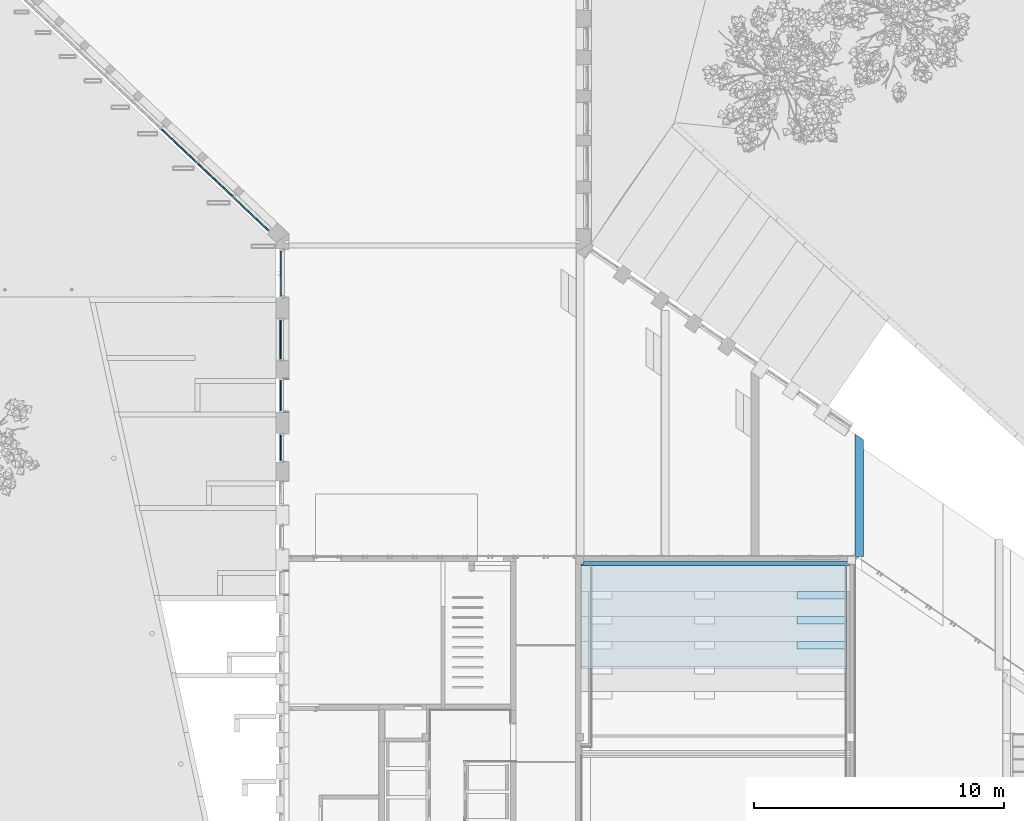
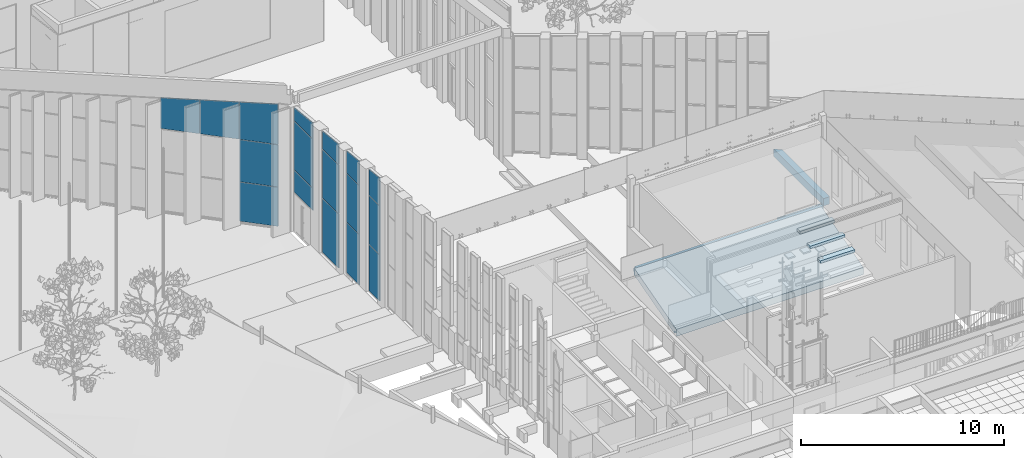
# One storey, part 98 of 246: 17 plates, 6 slabs, 5 elements without a shape of their own.
"""IFC2X3 building model written with IfcOpenShell, lengths in millimetres."""

import ifcopenshell
import ifcopenshell.guid

model = None  # the IFC model being written
_history = None  # IfcOwnerHistory: only IFC2X3 demands one
_inside = {}  # id of a spatial element -> (the spatial element, [elements in it])
_under = {}  # id of a project, library or spatial element -> (it, [spatial elements below it])
_declared = {}  # id of a project -> (the project, [libraries it declares])
_typed = {}  # id of a type object -> (the type object, [elements of that type])
_made_of = {}  # id of a material, layer set ... -> (it, [elements and type objects made of it])


def new_model(schema):
    """Start an empty IFC model of exactly this schema.

    Asked for "IFC4X3", IfcOpenShell would pick the latest addendum, in which some entities
    have other attributes; the version numbers below select the first issue.
    IFC2X3 requires an IfcOwnerHistory on every rooted entity: one is made here for all.
    """
    global model, _history
    if schema == "IFC4X3":
        model = ifcopenshell.file(schema_version=(4, 3, 0, 0))
    else:
        model = ifcopenshell.file(schema=schema)
    _inside.clear()
    _under.clear()
    _declared.clear()
    _typed.clear()
    _made_of.clear()
    _history = None
    if model.schema == "IFC2X3":
        org = make("IfcOrganization", Name="unknown")
        user = make(
            "IfcPersonAndOrganization",
            ThePerson=make("IfcPerson", FamilyName="unknown"),
            TheOrganization=org,
        )
        app = make(
            "IfcApplication",
            ApplicationDeveloper=org,
            Version="unknown",
            ApplicationFullName="unknown",
            ApplicationIdentifier="unknown",
        )
        _history = make(
            "IfcOwnerHistory",
            OwningUser=user,
            OwningApplication=app,
            ChangeAction="ADDED",
            CreationDate=0,
        )
    return model


def make(cls, **values):
    """One entity of the class cls with the attributes given. An attribute that is None is left unset."""
    return model.create_entity(
        cls, **{name: value for name, value in values.items() if value is not None}
    )


def entity(cls, *values):
    """Any entity or typed value of the class cls, its attributes in the order of the schema. None: left unset."""
    e = model.create_entity(cls)
    for i, value in enumerate(values):
        if value is not None:
            e[i] = value
    return e


def rooted(cls, **values):
    """An entity with a GlobalId (a new one), such as an element, a storey or a relation."""
    return make(cls, GlobalId=ifcopenshell.guid.new(), OwnerHistory=_history, **values)


def si_unit(unit_type, name, prefix=None):
    """IfcSIUnit, for example si_unit("LENGTHUNIT", "METRE", prefix="MILLI")."""
    return make("IfcSIUnit", UnitType=unit_type, Prefix=prefix, Name=name)


def converted_unit(unit_type, name, factor, base, dimensions=None, offset=None):
    """IfcConversionBasedUnit, such as the inch: factor (a typed value) times the base unit."""
    return make(
        "IfcConversionBasedUnit"
        if offset is None
        else "IfcConversionBasedUnitWithOffset",
        ConversionOffset=offset,
        Dimensions=None
        if dimensions is None
        else entity("IfcDimensionalExponents", *dimensions),
        UnitType=unit_type,
        Name=name,
        ConversionFactor=make(
            "IfcMeasureWithUnit", ValueComponent=factor, UnitComponent=base
        ),
    )


def derived_unit(unit_type, elements):
    """IfcDerivedUnit: a product of units, each with its exponent."""
    return make(
        "IfcDerivedUnit",
        Elements=[
            make("IfcDerivedUnitElement", Unit=unit, Exponent=power)
            for unit, power in elements
        ],
        UnitType=unit_type,
    )


def money_unit(currency):
    """IfcMonetaryUnit."""
    return make("IfcMonetaryUnit", Currency=currency)


def assignment(units):
    """IfcUnitAssignment: the units of a project."""
    return None if units is None else make("IfcUnitAssignment", Units=units)


def point(xyz):
    """IfcCartesianPoint."""
    return None if xyz is None else make("IfcCartesianPoint", Coordinates=xyz)


def direction(xyz):
    """IfcDirection."""
    return None if xyz is None else make("IfcDirection", DirectionRatios=xyz)


def frame(location, z_axis=None, x_axis=None):
    """IfcAxis2Placement3D, a coordinate frame: its origin and axes. An axis left out is left unset."""
    return make(
        "IfcAxis2Placement3D",
        Location=point(location),
        Axis=direction(z_axis),
        RefDirection=direction(x_axis),
    )


def origin_with_axes():
    """The frame at (0, 0, 0) with the z axis (0, 0, 1) and the x axis (1, 0, 0) written out."""
    return frame((0.0, 0.0, 0.0), z_axis=(0.0, 0.0, 1.0), x_axis=(1.0, 0.0, 0.0))


def place(relative_to, where):
    """IfcLocalPlacement: puts the frame where relative to a parent placement (None: the world)."""
    return make(
        "IfcLocalPlacement", PlacementRelTo=relative_to, RelativePlacement=where
    )


def context(
    kind, dimensions, precision=None, world=None, true_north=None, identifier=None
):
    """IfcGeometricRepresentationContext, for example the 3D "Model" context."""
    return make(
        "IfcGeometricRepresentationContext",
        ContextIdentifier=identifier,
        ContextType=kind,
        CoordinateSpaceDimension=dimensions,
        Precision=precision,
        WorldCoordinateSystem=world,
        TrueNorth=true_north,
    )


def subcontext(parent, identifier, kind, view, scale=None):
    """IfcGeometricRepresentationSubContext, for example "Body" below "Model"."""
    return make(
        "IfcGeometricRepresentationSubContext",
        ContextIdentifier=identifier,
        ContextType=kind,
        ParentContext=parent,
        TargetScale=scale,
        TargetView=view,
    )


def project(units=None, contexts=None):
    """IfcProject with its units and contexts."""
    return rooted(
        "IfcProject",
        Name="project",
        RepresentationContexts=contexts,
        UnitsInContext=assignment(units),
    )


def spatial(cls, under=None, at=None, **own):
    """A site, building, storey or space (cls), placed at a placement, below another one or the project."""
    s = rooted(cls, ObjectPlacement=at, **own)
    if under is not None:
        _under.setdefault(under.id(), (under, []))[1].append(s)
    return s


def faces_of(points, faces, orient=None, outer=None):
    """IfcFace entities. A face is a list of loops; a loop is a list of indices into points, from 0.

    orient and outer hold one flag for each loop. By default every Orientation is true, the
    first loop of a face is its IfcFaceOuterBound and the others are IfcFaceBound.
    """
    made = []
    for i, loops in enumerate(faces):
        bounds = []
        for j, loop in enumerate(loops):
            is_outer = j == 0 if outer is None else outer[i][j]
            bounds.append(
                make(
                    "IfcFaceOuterBound" if is_outer else "IfcFaceBound",
                    Bound=make("IfcPolyLoop", Polygon=[points[k] for k in loop]),
                    Orientation=True if orient is None else orient[i][j],
                )
            )
        made.append(make("IfcFace", Bounds=bounds))
    return made


def faceted_brep(points, faces, orient=None, outer=None, voids=None):
    """IfcFacetedBrep: a solid bounded by flat faces; with voids (closed shells), ...WithVoids."""
    shared = [point(p) for p in points]
    hull = make("IfcClosedShell", CfsFaces=faces_of(shared, faces, orient, outer))
    if voids is None:
        return make("IfcFacetedBrep", Outer=hull)
    return make(
        "IfcFacetedBrepWithVoids",
        Outer=hull,
        Voids=[
            make(cls, CfsFaces=faces_of(shared, fs, o, b)) for cls, fs, o, b in voids
        ],
    )


def shape(context_of_items, identifier, shape_type, items):
    """IfcShapeRepresentation: the items that make up one representation, for example the "Body"."""
    return make(
        "IfcShapeRepresentation",
        ContextOfItems=context_of_items,
        RepresentationIdentifier=identifier,
        RepresentationType=shape_type,
        Items=items,
    )


def material(Name=None, Category=None):
    """IfcMaterial."""
    return make("IfcMaterial", Name=Name, Category=Category)


def material_list(materials):
    """IfcMaterialList."""
    return make("IfcMaterialList", Materials=materials)


def made_of(thing, what):
    """Note that an element or type object is made of a material, layer set ...; save() writes the relation."""
    if what is not None:
        _made_of.setdefault(what.id(), (what, []))[1].append(thing)
    return thing


def type_object(cls, material=None, **own):
    """A type object (cls), such as IfcWallType, which elements share."""
    return made_of(rooted(cls, **own), material)


def element(
    cls,
    number,
    at=None,
    inside=None,
    cuts=None,
    type_object=None,
    material=None,
    context=None,
    identifier="Body",
    shape_type=None,
    held_by="IfcProductDefinitionShape",
    body=None,
    shapes=None,
    **own,
):
    """One element of the class cls, such as IfcWall. Its Tag is "e" and its number.

    at: its placement. inside: the storey or other place that contains it. cuts: it is an
    opening in that element (IfcRelVoidsElement). A single representation is given by context,
    identifier, shape_type and body (its items); several are given by shapes. held_by: the class
    of the entity that holds the representations. save() writes the other relations.
    """
    e = rooted(cls, Tag="e%d" % number, ObjectPlacement=at, **own)
    if body is not None:
        shapes = [shape(context, identifier, shape_type, body)]
    if shapes is not None:
        e.Representation = make(held_by, Representations=shapes)
    if inside is not None:
        _inside.setdefault(inside.id(), (inside, []))[1].append(e)
    if cuts is not None:
        rooted(
            "IfcRelVoidsElement", RelatingBuildingElement=cuts, RelatedOpeningElement=e
        )
    if type_object is not None:
        _typed.setdefault(type_object.id(), (type_object, []))[1].append(e)
    return made_of(e, material)


def aggregate(whole, parts):
    """IfcRelAggregates: a whole, such as a stair, and the parts it consists of."""
    return rooted("IfcRelAggregates", RelatingObject=whole, RelatedObjects=parts)


def save(model, path):
    """Write the relations noted so far, then the file.

    IfcRelAggregates (storeys below a building ...), IfcRelContainedInSpatialStructure (elements
    in a storey), IfcRelDefinesByType, IfcRelAssociatesMaterial and IfcRelDeclares: one each for
    every whole, place, type object, material and project.
    """
    for whole, parts in _under.values():
        aggregate(whole, parts)
    for where, things in _inside.values():
        rooted(
            "IfcRelContainedInSpatialStructure",
            RelatedElements=things,
            RelatingStructure=where,
        )
    for kind, things in _typed.values():
        rooted("IfcRelDefinesByType", RelatedObjects=things, RelatingType=kind)
    for what, things in _made_of.values():
        rooted("IfcRelAssociatesMaterial", RelatedObjects=things, RelatingMaterial=what)
    for by, libraries in _declared.values():
        rooted("IfcRelDeclares", RelatingContext=by, RelatedDefinitions=libraries)
    model.write(path)


model = new_model("IFC2X3")

# Units and contexts
model_context = context("Model", 3, precision=0.01, world=origin_with_axes(), true_north=direction((0.0, 1.0)))
body_context = subcontext(model_context, "Body", "Model", "MODEL_VIEW")
ifc_project = project(units=[si_unit("LENGTHUNIT", "METRE", prefix="MILLI"), si_unit("AREAUNIT", "SQUARE_METRE"), si_unit("VOLUMEUNIT", "CUBIC_METRE"), converted_unit("PLANEANGLEUNIT", "DEGREE", entity("IfcPlaneAngleMeasure", 0.0174532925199), si_unit("PLANEANGLEUNIT", "RADIAN"), dimensions=[0, 0, 0, 0, 0, 0, 0]), si_unit("SOLIDANGLEUNIT", "STERADIAN"), money_unit("EUR"), converted_unit("TIMEUNIT", "Year", entity("IfcTimeMeasure", 31556926.0), si_unit("TIMEUNIT", "SECOND"), dimensions=[0, 0, 1, 0, 0, 0, 0]), si_unit("MASSUNIT", "GRAM", prefix="KILO"), si_unit("THERMODYNAMICTEMPERATUREUNIT", "DEGREE_CELSIUS"), si_unit("LUMINOUSINTENSITYUNIT", "LUMEN"), si_unit("ENERGYUNIT", "JOULE", prefix="MEGA"), derived_unit("THERMALCONDUCTANCEUNIT", [(si_unit("POWERUNIT", "WATT"), 1), (si_unit("LENGTHUNIT", "METRE"), -1), (si_unit("THERMODYNAMICTEMPERATUREUNIT", "KELVIN"), -1)]), derived_unit("SPECIFICHEATCAPACITYUNIT", [(si_unit("ENERGYUNIT", "JOULE"), 1), (si_unit("MASSUNIT", "GRAM", prefix="KILO"), -1), (si_unit("THERMODYNAMICTEMPERATUREUNIT", "KELVIN"), -1)]), derived_unit("MASSDENSITYUNIT", [(si_unit("MASSUNIT", "GRAM", prefix="KILO"), 1), (si_unit("VOLUMEUNIT", "CUBIC_METRE"), -1)])], contexts=[model_context])

# Site, building, storey
site_placement = place(None, origin_with_axes())
site = spatial("IfcSite", under=ifc_project, at=site_placement, Name="L.Koidula tn 11b", CompositionType="ELEMENT")
building_placement = place(site_placement, origin_with_axes())
building = spatial("IfcBuilding", under=site, at=building_placement, Name="Rakvere Riigigümnaasium", CompositionType="ELEMENT")
storey_placement = place(building_placement, origin_with_axes())
storey = spatial("IfcBuildingStorey", under=building, at=storey_placement, Name="1.korrus 0,00", CompositionType="ELEMENT", Elevation=0.0)

# Curtain wall, plates
curtain_wall_type = type_object("IfcCurtainWallType", Name="Curtain Wall Type", PredefinedType="NOTDEFINED")
curtain_wall_1_placement = place(storey_placement, frame((33997.0353268, 45217.6604975, 0.0), z_axis=(0.0, 0.0, 1.0), x_axis=(1.0, 0.0, 0.0)))
curtain_wall_1 = element("IfcCurtainWall", 1, at=curtain_wall_1_placement, inside=storey, type_object=curtain_wall_type, Name="KLF-02")
ifc_material_1 = material(Name="Klaaspakett 3x")
plate_type_1 = type_object("IfcPlateType", Name="Distinct Panel 1951 x 2351 x 54", PredefinedType="CURTAIN_PANEL")
plate_1_placement = place(curtain_wall_1_placement, frame((0.0, 0.0, 1200.00015639), z_axis=(0.0, 0.0, 1.0), x_axis=(0.725960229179, -0.687736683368, 0.0)))
plate_1 = element("IfcPlate", 2, at=plate_1_placement, type_object=plate_type_1, material=ifc_material_1, Name="KLF-07-Klaasid", ObjectType="CURTAIN_PANEL", context=body_context, shape_type="Brep", body=[
    faceted_brep([(-988.000008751, 27.0, 1188.00015483), (-988.000008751, -27.0, 1188.00015483), (962.999995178, -27.0, 1188.00015483), (962.999995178, 27.0, 1188.00015483), (-988.000008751, 27.0, -1163.00015157), (-988.000008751, -27.0, -1163.00015157), (962.999995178, -27.0, -1163.00015157), (962.999995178, 27.0, -1163.00015157)], [[[0, 1, 2, 3]], [[4, 5, 1, 0]], [[1, 5, 6, 2]], [[3, 2, 6, 7]], [[0, 3, 7, 4]], [[7, 6, 5, 4]]]),
])
plate_type_2 = type_object("IfcPlateType", Name="Distinct Panel 1951 x 2526 x 54", PredefinedType="CURTAIN_PANEL")
plate_2_placement = place(curtain_wall_1_placement, frame((0.0, 0.0, 3675.00031279), z_axis=(0.0, 0.0, 1.0), x_axis=(0.725960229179, -0.687736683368, 0.0)))
plate_2 = element("IfcPlate", 3, at=plate_2_placement, type_object=plate_type_2, material=ifc_material_1, Name="KLF-08-Klaasid", ObjectType="CURTAIN_PANEL", context=body_context, shape_type="Brep", body=[
    faceted_brep([(-988.000006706, 27.0, 1263.00000447), (-988.000006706, -27.0, 1263.00000447), (962.999982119, -27.0, 1263.00000447), (962.999982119, 27.0, 1263.00000447), (-988.000006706, 27.0, -1263.00000447), (-988.000006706, -27.0, -1263.00000447), (962.999982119, -27.0, -1263.00000447), (962.999982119, 27.0, -1263.00000447)], [[[0, 1, 2, 3]], [[4, 5, 1, 0]], [[1, 5, 6, 2]], [[3, 2, 6, 7]], [[0, 3, 7, 4]], [[7, 6, 5, 4]]]),
])
plate_type_3 = type_object("IfcPlateType", Name="Distinct Panel 1976 x 2035 x 54", PredefinedType="CURTAIN_PANEL")
plate_3_placement = place(curtain_wall_1_placement, frame((-2903.84091672, 2750.94673347, 5943.18719968), z_axis=(0.0, 0.0, 1.0), x_axis=(0.725960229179, -0.687736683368, 0.0)))
plate_3 = element("IfcPlate", 4, at=plate_3_placement, type_object=plate_type_3, material=ifc_material_1, Name="KLF-36-Klaasid", ObjectType="CURTAIN_PANEL", context=body_context, shape_type="Brep", body=[
    faceted_brep([(988.00000779, 27.0, 1053.42221457), (988.00000779, -27.0, 1053.42221457), (988.00000779, -27.0, -981.186894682), (988.00000779, 27.0, -981.186894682), (-988.000003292, 27.0, 858.592732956), (-988.000003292, -27.0, 858.592732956), (-988.000003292, -27.0, -981.186894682), (-988.000003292, 27.0, -981.186894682)], [[[0, 1, 2, 3]], [[4, 5, 1, 0]], [[1, 5, 6, 2]], [[3, 2, 6, 7]], [[0, 3, 7, 4]], [[7, 6, 5, 4]]]),
])
plate_type_4 = type_object("IfcPlateType", Name="Distinct Panel 1976 x 2232 x 54", PredefinedType="CURTAIN_PANEL")
plate_4_placement = place(curtain_wall_1_placement, frame((-1451.92045836, 1375.47336674, 6041.78512409), z_axis=(0.0, 0.0, 1.0), x_axis=(0.725960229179, -0.687736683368, 0.0)))
plate_4 = element("IfcPlate", 5, at=plate_4_placement, type_object=plate_type_4, material=ifc_material_1, Name="KLF-39-Klaasid", ObjectType="CURTAIN_PANEL", context=body_context, shape_type="Brep", body=[
    faceted_brep([(987.999992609, 27.0, 1152.02014634), (987.999992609, -27.0, 1152.02014634), (987.999992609, -27.0, -1079.78480392), (987.999992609, 27.0, -1079.78480392), (-988.000000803, 27.0, 957.190652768), (-988.000000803, -27.0, 957.190652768), (-988.000000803, -27.0, -1079.78480392), (-988.000000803, 27.0, -1079.78480392)], [[[0, 1, 2, 3]], [[4, 5, 1, 0]], [[1, 5, 6, 2]], [[3, 2, 6, 7]], [[0, 3, 7, 4]], [[7, 6, 5, 4]]]),
])
plate_type_5 = type_object("IfcPlateType", Name="Distinct Panel 1951 x 2427 x 54", PredefinedType="CURTAIN_PANEL")
plate_5_placement = place(curtain_wall_1_placement, frame((0.0, 0.0, 6140.38304851), z_axis=(0.0, 0.0, 1.0), x_axis=(0.725960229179, -0.687736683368, 0.0)))
plate_5 = element("IfcPlate", 6, at=plate_5_placement, type_object=plate_type_5, material=ifc_material_1, Name="KLF-42-Klaasid", ObjectType="CURTAIN_PANEL", context=body_context, shape_type="Brep", body=[
    faceted_brep([(962.99999339, 27.0, 1248.15314973), (962.99999339, -27.0, 1248.15314973), (962.99999339, -27.0, -1178.38273557), (962.99999339, 27.0, -1178.38273557), (-988.000000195, 27.0, 1055.78858981), (-988.000000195, -27.0, 1055.78858981), (-988.000000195, -27.0, -1178.38273557), (-988.000000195, 27.0, -1178.38273557)], [[[0, 1, 2, 3]], [[4, 5, 1, 0]], [[1, 5, 6, 2]], [[3, 2, 6, 7]], [[0, 3, 7, 4]], [[7, 6, 5, 4]]]),
])
aggregate(curtain_wall_1, [plate_1, plate_2, plate_3, plate_4, plate_5])

curtain_wall_2_placement = place(storey_placement, frame((35176.0871233, 42850.4555755, -0.000136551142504), z_axis=(0.0, 0.0, 1.0), x_axis=(1.0, 0.0, 0.0)))
curtain_wall_2 = element("IfcCurtainWall", 7, at=curtain_wall_2_placement, inside=storey, type_object=curtain_wall_type, Name="KLF-03-01")
plate_type_6 = type_object("IfcPlateType", Name="Distinct Panel 1826 x 780 x 54", PredefinedType="CURTAIN_PANEL")
plate_6_placement = place(curtain_wall_2_placement, frame((0.0, 0.0, 7152.65300516), z_axis=(0.0, 0.0, 1.0), x_axis=(0.0, 1.0, 0.0)))
plate_6 = element("IfcPlate", 8, at=plate_6_placement, type_object=plate_type_6, material=ifc_material_1, Name="KLF-03-01-Klaasid", ObjectType="CURTAIN_PANEL", context=body_context, shape_type="Brep", body=[
    faceted_brep([(-912.999907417, -27.0, 521.4092496), (912.999907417, -27.0, 329.48893271), (912.999907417, 27.0, 329.48893271), (-912.999907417, 27.0, 521.4092496), (-912.999907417, -27.0, -450.652887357), (912.999907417, -27.0, -450.652887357), (912.999907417, 27.0, -450.652887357), (-912.999907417, 27.0, -450.652887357)], [[[0, 1, 2, 3]], [[0, 4, 5, 1]], [[1, 5, 6, 2]], [[3, 2, 6, 7]], [[4, 0, 3, 7]], [[5, 4, 7, 6]]]),
])
plate_type_7 = type_object("IfcPlateType", Name="Distinct Panel 1826 x 2921 x 54", PredefinedType="CURTAIN_PANEL")
plate_7_placement = place(curtain_wall_2_placement, frame((0.0, 9.9999226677e-06, 5217.50012036), z_axis=(0.0, 0.0, 1.0), x_axis=(0.0, 1.0, 0.0)))
plate_7 = element("IfcPlate", 9, at=plate_7_placement, type_object=plate_type_7, material=ifc_material_1, Name="KLF-03-01-Klaasid", ObjectType="CURTAIN_PANEL", context=body_context, shape_type="Brep", body=[
    faceted_brep([(-912.999946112, -27.0, 1460.50001848), (912.999889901, -27.0, 1460.50001848), (912.999889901, 27.0, 1460.50001848), (-912.999946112, 27.0, 1460.50001848), (-912.999902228, -27.0, -1460.50001848), (912.999889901, -27.0, -1460.50001848), (912.999889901, 27.0, -1460.50001848), (-912.999902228, 27.0, -1460.50001848)], [[[0, 1, 2, 3]], [[0, 4, 5, 1]], [[1, 5, 6, 2]], [[3, 2, 6, 7]], [[4, 0, 3, 7]], [[5, 4, 7, 6]]]),
])
plate_type_8 = type_object("IfcPlateType", Name="Distinct Panel 1826 x 1321 x 54", PredefinedType="CURTAIN_PANEL")
plate_8_placement = place(curtain_wall_2_placement, frame((0.0, 1.99998453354e-05, 3072.50012036), z_axis=(0.0, 0.0, 1.0), x_axis=(0.0, 1.0, 0.0)))
plate_8 = element("IfcPlate", 10, at=plate_8_placement, type_object=plate_type_8, material=ifc_material_1, Name="KLF-03-01-Klaasid", ObjectType="CURTAIN_PANEL", context=body_context, shape_type="Brep", body=[
    faceted_brep([(-912.999888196, -27.0, 660.499988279), (912.999888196, -27.0, 660.499988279), (912.999888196, 27.0, 660.499988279), (-912.999888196, 27.0, 660.499988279), (-912.999888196, -27.0, -660.500002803), (912.999888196, -27.0, -660.500002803), (912.999888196, 27.0, -660.500002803), (-912.999888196, 27.0, -660.500002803)], [[[0, 1, 2, 3]], [[0, 4, 5, 1]], [[1, 5, 6, 2]], [[3, 2, 6, 7]], [[4, 0, 3, 7]], [[5, 4, 7, 6]]]),
])
aggregate(curtain_wall_2, [plate_6, plate_7, plate_8])

curtain_wall_3_placement = place(storey_placement, frame((35166.0871538, 40185.4556279, 444.999899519), z_axis=(0.0, 0.0, 1.0), x_axis=(1.0, 0.0, 0.0)))
curtain_wall_3 = element("IfcCurtainWall", 11, at=curtain_wall_3_placement, inside=storey, type_object=curtain_wall_type, Name="KLF-03-02")
plate_type_9 = type_object("IfcPlateType", Name="Distinct Panel 1576 x 2921 x 54", PredefinedType="CURTAIN_PANEL")
plate_9_placement = place(curtain_wall_3_placement, frame((0.0, 0.0, 4772.50011735), z_axis=(0.0, 0.0, 1.0), x_axis=(0.0, 1.0, 0.0)))
plate_9 = element("IfcPlate", 12, at=plate_9_placement, type_object=plate_type_9, material=ifc_material_1, Name="KLF-03-02-Klaasid", ObjectType="CURTAIN_PANEL", context=body_context, shape_type="Brep", body=[
    faceted_brep([(-787.999915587, -27.0, 1460.50001848), (787.999881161, -27.0, 1460.50001848), (787.999881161, 27.0, 1460.50001848), (-787.999915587, 27.0, 1460.50001848), (-787.999871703, -27.0, -1460.50001848), (787.999881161, -27.0, -1460.50001848), (787.999881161, 27.0, -1460.50001848), (-787.999871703, 27.0, -1460.50001848)], [[[0, 1, 2, 3]], [[0, 4, 5, 1]], [[1, 5, 6, 2]], [[3, 2, 6, 7]], [[4, 0, 3, 7]], [[5, 4, 7, 6]]]),
])
plate_type_10 = type_object("IfcPlateType", Name="Distinct Panel 1576 x 1073 x 54", PredefinedType="CURTAIN_PANEL")
plate_10_placement = place(curtain_wall_3_placement, frame((0.0, -2.0628334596e-06, 6847.70434512), z_axis=(0.0, 0.0, 1.0), x_axis=(0.0, 1.0, 0.0)))
plate_10 = element("IfcPlate", 13, at=plate_10_placement, type_object=plate_type_10, material=ifc_material_1, Name="KLF-03-02-Klaasid", ObjectType="CURTAIN_PANEL", context=body_context, shape_type="Brep", body=[
    faceted_brep([(-787.999903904, -27.0, 648.322591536), (787.999903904, -27.0, 482.678261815), (787.999903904, 27.0, 482.678261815), (-787.999903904, 27.0, 648.322591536), (-787.999903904, -27.0, -590.704229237), (787.999903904, -27.0, -590.704229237), (787.999903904, 27.0, -590.704229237), (-787.999903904, 27.0, -590.704229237)], [[[0, 1, 2, 3]], [[0, 4, 5, 1]], [[1, 5, 6, 2]], [[3, 2, 6, 7]], [[4, 0, 3, 7]], [[5, 4, 7, 6]]]),
])
plate_type_11 = type_object("IfcPlateType", Name="Distinct Panel 1576 x 3251 x 54", PredefinedType="CURTAIN_PANEL")
plate_11_placement = place(curtain_wall_3_placement, frame((0.0, 2.06284056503e-06, 1650.00005867), z_axis=(0.0, 0.0, 1.0), x_axis=(0.0, 1.0, 0.0)))
plate_11 = element("IfcPlate", 14, at=plate_11_placement, type_object=plate_type_11, material=ifc_material_1, Name="KLF-03-02-Klaasid", ObjectType="CURTAIN_PANEL", context=body_context, shape_type="Brep", body=[
    faceted_brep([(-787.999916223, -27.0, 1638.00005825), (787.99989395, -27.0, 1638.00005825), (787.99989395, 27.0, 1638.00005825), (-787.999916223, 27.0, 1638.00005825), (-787.999916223, -27.0, -1613.00005736), (787.99989395, -27.0, -1613.00005736), (787.99989395, 27.0, -1613.00005736), (-787.999916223, 27.0, -1613.00005736)], [[[0, 1, 2, 3]], [[0, 4, 5, 1]], [[1, 5, 6, 2]], [[3, 2, 6, 7]], [[4, 0, 3, 7]], [[5, 4, 7, 6]]]),
])
aggregate(curtain_wall_3, [plate_9, plate_10, plate_11])

curtain_wall_4_placement = place(storey_placement, frame((35166.0871538, 37960.3285917, 675.278539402), z_axis=(0.0, 0.0, 1.0), x_axis=(1.0, 0.0, 0.0)))
curtain_wall_4 = element("IfcCurtainWall", 15, at=curtain_wall_4_placement, inside=storey, type_object=curtain_wall_type, Name="KLF-03-03")
plate_type_12 = type_object("IfcPlateType", Name="Distinct Panel 1226 x 1325 x 54", PredefinedType="CURTAIN_PANEL")
plate_12_placement = place(curtain_wall_4_placement, frame((0.0, 0.0, 6734.50018132), z_axis=(0.0, 0.0, 1.0), x_axis=(0.0, 1.0, 0.0)))
plate_12 = element("IfcPlate", 16, at=plate_12_placement, type_object=plate_type_12, material=ifc_material_1, Name="KLF-03-03-Klaasid", ObjectType="CURTAIN_PANEL", context=body_context, shape_type="Brep", body=[
    faceted_brep([(-613.126878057, -27.0, 746.738419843), (613.126891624, -27.0, 617.854002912), (613.126891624, 27.0, 617.854002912), (-613.126878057, 27.0, 746.738419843), (-613.126878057, -27.0, -707.500036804), (613.126891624, -27.0, -707.500036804), (613.126891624, 27.0, -707.500036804), (-613.126878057, 27.0, -707.500036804)], [[[0, 1, 2, 3]], [[0, 4, 5, 1]], [[1, 5, 6, 2]], [[3, 2, 6, 7]], [[4, 0, 3, 7]], [[5, 4, 7, 6]]]),
])
plate_type_13 = type_object("IfcPlateType", Name="Distinct Panel 1226 x 3021 x 54", PredefinedType="CURTAIN_PANEL")
plate_13_placement = place(curtain_wall_4_placement, frame((0.0, 8.09435221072e-05, 1535.00007507), z_axis=(0.0, 0.0, 1.0), x_axis=(0.0, 1.0, 0.0)))
plate_13 = element("IfcPlate", 17, at=plate_13_placement, type_object=plate_type_13, material=ifc_material_1, Name="KLF-03-03-Klaasid", ObjectType="CURTAIN_PANEL", context=body_context, shape_type="Brep", body=[
    faceted_brep([(-613.126876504, -27.0, 1523.00005288), (613.126806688, -27.0, 1523.00005288), (613.126806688, 27.0, 1523.00005288), (-613.126876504, 27.0, 1523.00005288), (-613.126739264, -27.0, -1498.00007907), (613.126806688, -27.0, -1498.00007907), (613.126806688, 27.0, -1498.00007907), (-613.126739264, 27.0, -1498.00007907)], [[[0, 1, 2, 3]], [[0, 4, 5, 1]], [[1, 5, 6, 2]], [[3, 2, 6, 7]], [[4, 0, 3, 7]], [[5, 4, 7, 6]]]),
])
plate_type_14 = type_object("IfcPlateType", Name="Distinct Panel 1226 x 2921 x 54", PredefinedType="CURTAIN_PANEL")
plate_14_placement = place(curtain_wall_4_placement, frame((0.0, 2.65016808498e-05, 4542.50015014), z_axis=(0.0, 0.0, 1.0), x_axis=(0.0, 1.0, 0.0)))
plate_14 = element("IfcPlate", 18, at=plate_14_placement, type_object=plate_type_14, material=ifc_material_1, Name="KLF-03-03-Klaasid", ObjectType="CURTAIN_PANEL", context=body_context, shape_type="Brep", body=[
    faceted_brep([(-613.126909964, -27.0, 1460.50001848), (613.12684096, -27.0, 1460.50001848), (613.12684096, 27.0, 1460.50001848), (-613.126909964, 27.0, 1460.50001848), (-613.126822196, -27.0, -1460.50001848), (613.12684096, -27.0, -1460.50001848), (613.12684096, 27.0, -1460.50001848), (-613.126822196, 27.0, -1460.50001848)], [[[0, 1, 2, 3]], [[0, 4, 5, 1]], [[1, 5, 6, 2]], [[3, 2, 6, 7]], [[4, 0, 3, 7]], [[5, 4, 7, 6]]]),
])
aggregate(curtain_wall_4, [plate_12, plate_13, plate_14])

curtain_wall_5_placement = place(storey_placement, frame((35166.0871538, 35860.1924029, 909.999937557), z_axis=(0.0, 0.0, 1.0), x_axis=(1.0, 0.0, 0.0)))
curtain_wall_5 = element("IfcCurtainWall", 19, at=curtain_wall_5_placement, inside=storey, type_object=curtain_wall_type, Name="KLF-03-04")
plate_type_15 = type_object("IfcPlateType", Name="Distinct Panel 1026 x 2921 x 54", PredefinedType="CURTAIN_PANEL")
plate_15_placement = place(curtain_wall_5_placement, frame((0.0, 0.0, 4307.5000985), z_axis=(0.0, 0.0, 1.0), x_axis=(0.0, 1.0, 0.0)))
plate_15 = element("IfcPlate", 20, at=plate_15_placement, type_object=plate_type_15, material=ifc_material_1, Name="KLF-03-04-Klaasid", ObjectType="CURTAIN_PANEL", context=body_context, shape_type="Brep", body=[
    faceted_brep([(-513.000007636, -27.0, 1460.50001848), (512.99994848, -27.0, 1460.50001848), (512.99994848, 27.0, 1460.50001848), (-513.000007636, 27.0, 1460.50001848), (-512.999919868, -27.0, -1460.50001848), (512.99994848, -27.0, -1460.50001848), (512.99994848, 27.0, -1460.50001848), (-512.999919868, 27.0, -1460.50001848)], [[[0, 1, 2, 3]], [[0, 4, 5, 1]], [[1, 5, 6, 2]], [[3, 2, 6, 7]], [[4, 0, 3, 7]], [[5, 4, 7, 6]]]),
])
plate_type_16 = type_object("IfcPlateType", Name="Distinct Panel 1026 x 2786 x 54", PredefinedType="CURTAIN_PANEL")
plate_16_placement = place(curtain_wall_5_placement, frame((0.0, 2.19966764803e-05, 1417.50004925), z_axis=(0.0, 0.0, 1.0), x_axis=(0.0, 1.0, 0.0)))
plate_16 = element("IfcPlate", 21, at=plate_16_placement, type_object=plate_type_16, material=ifc_material_1, Name="KLF-03-04-Klaasid", ObjectType="CURTAIN_PANEL", context=body_context, shape_type="Brep", body=[
    faceted_brep([(-512.999922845, -27.0, 1405.50006627), (512.999931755, -27.0, 1405.50006627), (512.999931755, 27.0, 1405.50006627), (-512.999922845, 27.0, 1405.50006627), (-512.999922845, -27.0, -1380.50003836), (512.999931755, -27.0, -1380.50003836), (512.999931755, 27.0, -1380.50003836), (-512.999922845, 27.0, -1380.50003836)], [[[0, 1, 2, 3]], [[0, 4, 5, 1]], [[1, 5, 6, 2]], [[3, 2, 6, 7]], [[4, 0, 3, 7]], [[5, 4, 7, 6]]]),
])
plate_type_17 = type_object("IfcPlateType", Name="Distinct Panel 1026 x 1557 x 54", PredefinedType="CURTAIN_PANEL")
plate_17_placement = place(curtain_wall_5_placement, frame((0.0, -2.19966764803e-05, 6610.00605921), z_axis=(0.0, 0.0, 1.0), x_axis=(0.0, 1.0, 0.0)))
plate_17 = element("IfcPlate", 22, at=plate_17_placement, type_object=plate_type_17, material=ifc_material_1, Name="KLF-03-04-Klaasid", ObjectType="CURTAIN_PANEL", context=body_context, shape_type="Brep", body=[
    faceted_brep([(-512.999987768, -27.0, 846.720666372), (512.999990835, -27.0, 738.883637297), (512.999990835, 27.0, 738.883637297), (-512.999987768, 27.0, 846.720666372), (-512.999987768, -27.0, -818.005968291), (512.999990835, -27.0, -818.005968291), (512.999990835, 27.0, -818.005968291), (-512.999987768, 27.0, -818.005968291)], [[[0, 1, 2, 3]], [[0, 4, 5, 1]], [[1, 5, 6, 2]], [[3, 2, 6, 7]], [[4, 0, 3, 7]], [[5, 4, 7, 6]]]),
])
aggregate(curtain_wall_5, [plate_15, plate_16, plate_17])

# Slabs
ifc_material_2 = material(Name="Betoon element / plaat")
ifc_material_3 = material(Name="Soojustus - EPS")
ifc_material_4 = material(Name="Killustik")
ifc_material_list = material_list([ifc_material_2, ifc_material_3, ifc_material_3, ifc_material_4])
slab_type_1 = type_object("IfcSlabType", Name="PP-01 490", PredefinedType="NOTDEFINED")
slab_1_placement = place(storey_placement, frame((47580.0348101, 27000.1523821, -325.983807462), z_axis=(0.0, 0.0, 1.0), x_axis=(0.999999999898, -1.42554455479e-05, 0.0)))
element("IfcSlab", 23, at=slab_1_placement, inside=storey, type_object=slab_type_1, material=ifc_material_list, Name="Põrand pinnasel", PredefinedType="NOTDEFINED", context=body_context, shape_type="Brep", body=[
    faceted_brep([(-370.090490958, 4132.59936028, 1569.2610721), (7145.3141909, 4004.49591566, 1533.49032027), (10264.9440183, 3951.32042562, 1518.64195094), (10265.0003441, 0.146332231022, 415.342438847), (-370.031578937, -0.00527502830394, 415.300105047), (-370.088663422, 4004.38878025, 1533.49032027), (10264.9445554, 3913.63129647, 1508.1266839), (-370.087367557, 3913.47968935, 1508.1266839), (10265.000278, 4.54038777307, 417.490320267), (10265.0003407, 0.146332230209, 416.264378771), (10264.9458512, 3822.72220557, 1482.76304754), (10264.9471471, 3731.81311467, 1457.39941118), (10264.948443, 3640.90402377, 1432.03577481), (10264.9497389, 3549.99493287, 1406.67213845), (10264.9510347, 3459.08584197, 1381.30850209), (10264.9523306, 3368.17675107, 1355.94486572), (10264.9536265, 3277.26766017, 1330.58122936), (10264.9549224, 3186.35856927, 1305.21759299), (10264.9562182, 3095.44947837, 1279.85395663), (10264.9575141, 3004.54038747, 1254.49032027), (10264.95881, 2913.63129657, 1229.1266839), (10264.9601059, 2822.72220567, 1203.76304754), (10264.9614017, 2731.81311477, 1178.39941118), (10264.9626976, 2640.90402387, 1153.03577481), (10264.9639935, 2549.99493297, 1127.67213845), (10264.9652894, 2459.08584207, 1102.30850209), (10264.9665852, 2368.17675117, 1076.94486572), (10264.9678811, 2277.26766027, 1051.58122936), (10264.969177, 2186.35856937, 1026.21759299), (10264.9704729, 2095.44947847, 1000.85395663), (10264.9717688, 2004.54038757, 975.490320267), (10264.9730646, 1913.63129667, 950.126683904), (10264.9743605, 1822.72220577, 924.76304754), (10264.9756564, 1731.81311487, 899.399411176), (10264.9769523, 1640.90402397, 874.035774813), (10264.9782481, 1549.99493307, 848.672138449), (10264.979544, 1459.08584217, 823.308502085), (10264.9808399, 1368.17675127, 797.944865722), (10264.9821358, 1277.26766037, 772.581229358), (10264.9834316, 1186.35856947, 747.217592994), (10264.9847275, 1095.44947857, 721.853956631), (10264.9860234, 1004.54038767, 696.490320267), (10264.9873193, 913.631296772, 671.126683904), (10264.9886151, 822.722205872, 645.76304754), (10264.989911, 731.813114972, 620.399411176), (10264.9912069, 640.904024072, 595.035774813), (10264.9925028, 549.994933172, 569.672138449), (10264.9937986, 459.085842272, 544.308502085), (10264.9950945, 368.176751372, 518.944865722), (10264.9963904, 277.267660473, 493.581229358), (10264.9976863, 186.358569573, 468.217592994), (10264.9989821, 95.4494786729, 442.853956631), (-370.031582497, -0.00527502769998, 416.264378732), (-370.031645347, 4.38878065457, 417.490320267), (-370.032941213, 95.2978715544, 442.853956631), (-370.034237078, 186.206962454, 468.217592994), (-370.035532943, 277.116053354, 493.581229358), (-370.036828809, 368.025144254, 518.944865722), (-370.038124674, 458.934235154, 544.308502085), (-370.039420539, 549.843326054, 569.672138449), (-370.040716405, 640.752416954, 595.035774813), (-370.04201227, 731.661507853, 620.399411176), (-370.043308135, 822.570598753, 645.76304754), (-370.044604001, 913.479689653, 671.126683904), (-370.045899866, 1004.38878055, 696.490320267), (-370.047195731, 1095.29787145, 721.853956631), (-370.048491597, 1186.20696235, 747.217592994), (-370.049787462, 1277.11605325, 772.581229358), (-370.051083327, 1368.02514415, 797.944865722), (-370.052379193, 1458.93423505, 823.308502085), (-370.053675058, 1549.84332595, 848.672138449), (-370.054970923, 1640.75241685, 874.035774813), (-370.056266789, 1731.66150775, 899.399411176), (-370.057562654, 1822.57059865, 924.76304754), (-370.058858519, 1913.47968955, 950.126683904), (-370.060154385, 2004.38878045, 975.490320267), (-370.06145025, 2095.29787135, 1000.85395663), (-370.062746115, 2186.20696225, 1026.21759299), (-370.064041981, 2277.11605315, 1051.58122936), (-370.065337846, 2368.02514405, 1076.94486572), (-370.066633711, 2458.93423495, 1102.30850209), (-370.067929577, 2549.84332585, 1127.67213845), (-370.069225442, 2640.75241675, 1153.03577481), (-370.070521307, 2731.66150765, 1178.39941118), (-370.071817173, 2822.57059855, 1203.76304754), (-370.073113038, 2913.47968945, 1229.1266839), (-370.074408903, 3004.38878035, 1254.49032027), (-370.075704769, 3095.29787125, 1279.85395663), (-370.077000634, 3186.20696215, 1305.21759299), (-370.078296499, 3277.11605305, 1330.58122936), (-370.079592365, 3368.02514395, 1355.94486572), (-370.08088823, 3458.93423485, 1381.30850209), (-370.082184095, 3549.84332575, 1406.67213845), (-370.083479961, 3640.75241665, 1432.03577481), (-370.084775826, 3731.66150755, 1457.39941118), (-370.086071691, 3822.57059845, 1482.76304754)], [[[0, 1, 2, 3, 4]], [[1, 0, 5]], [[6, 2, 1, 5, 7]], [[8, 9, 3, 2, 6, 10, 11, 12, 13, 14, 15, 16, 17, 18, 19, 20, 21, 22, 23, 24, 25, 26, 27, 28, 29, 30, 31, 32, 33, 34, 35, 36, 37, 38, 39, 40, 41, 42, 43, 44, 45, 46, 47, 48, 49, 50, 51]], [[9, 52, 4, 3]], [[5, 0, 4, 52, 53, 54, 55, 56, 57, 58, 59, 60, 61, 62, 63, 64, 65, 66, 67, 68, 69, 70, 71, 72, 73, 74, 75, 76, 77, 78, 79, 80, 81, 82, 83, 84, 85, 86, 87, 88, 89, 90, 91, 92, 93, 94, 95, 7]], [[10, 6, 7, 95]], [[9, 8, 53, 52]], [[11, 10, 95, 94]], [[12, 11, 94, 93]], [[13, 12, 93, 92]], [[14, 13, 92, 91]], [[15, 14, 91, 90]], [[16, 15, 90, 89]], [[17, 16, 89, 88]], [[18, 17, 88, 87]], [[19, 18, 87, 86]], [[20, 19, 86, 85]], [[21, 20, 85, 84]], [[22, 21, 84, 83]], [[23, 22, 83, 82]], [[24, 23, 82, 81]], [[25, 24, 81, 80]], [[26, 25, 80, 79]], [[27, 26, 79, 78]], [[28, 27, 78, 77]], [[29, 28, 77, 76]], [[30, 29, 76, 75]], [[31, 30, 75, 74]], [[32, 31, 74, 73]], [[33, 32, 73, 72]], [[34, 33, 72, 71]], [[35, 34, 71, 70]], [[36, 35, 70, 69]], [[37, 36, 69, 68]], [[38, 37, 68, 67]], [[39, 38, 67, 66]], [[40, 39, 66, 65]], [[41, 40, 65, 64]], [[42, 41, 64, 63]], [[43, 42, 63, 62]], [[44, 43, 62, 61]], [[45, 44, 61, 60]], [[46, 45, 60, 59]], [[47, 46, 59, 58]], [[48, 47, 58, 57]], [[49, 48, 57, 56]], [[50, 49, 56, 55]], [[51, 50, 55, 54]], [[8, 51, 54, 53]]]),
    faceted_brep([(-370.09057866, 4138.75192967, 1570.97763896), (10264.9413443, 4138.90353679, 1570.97763896), (10264.9417276, 4138.90338658, 1467.19597187), (-370.090195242, 4138.75177916, 1467.15363803), (10264.9432595, 4004.54038737, 1533.49032027), (-370.090490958, 4132.59936028, 1569.2610721), (7145.3141911, 4004.49591566, 1533.49032027), (10264.9440183, 3951.32042563, 1518.64195094), (10265.0003441, 0.146332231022, 415.342438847), (10265.0007276, 0.146332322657, 311.51704437), (-370.031195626, -0.00527509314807, 311.474710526), (-370.031578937, -0.00527502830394, 415.300105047)], [[[0, 1, 2, 3]], [[4, 1, 0, 5, 6]], [[4, 7, 8, 9, 2, 1]], [[9, 10, 3, 2]], [[5, 0, 3, 10, 11]], [[6, 5, 11, 8, 7]], [[7, 4, 6]], [[10, 9, 8, 11]]]),
    faceted_brep([(10265.0011067, 0.449497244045, 207.776303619), (10265.0010395, 0.449497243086, 225.983807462), (10265.0001772, 65.6548351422, 225.983807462), (10264.942111, 4138.90338666, 1363.37057739), (10264.9417276, 4138.90338658, 1467.19597187), (10265.0007276, 0.146332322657, 311.51704437), (10265.001111, 0.146332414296, 207.691649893), (-370.030816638, 0.297890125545, 207.733969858), (-370.030883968, 0.297890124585, 225.983807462), (-370.031748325, 65.6548351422, 225.983807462), (-370.089811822, 4138.75177909, 1363.32824351), (-370.090195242, 4138.75177916, 1467.15363803), (-370.031195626, -0.00527509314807, 311.474710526), (-370.030812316, -0.0052751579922, 207.649316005)], [[[0, 1, 2, 3, 4, 5, 6]], [[1, 0, 7, 8]], [[9, 2, 1, 8]], [[2, 9, 10, 3]], [[10, 11, 4, 3]], [[12, 5, 4, 11]], [[6, 5, 12, 13]], [[7, 0, 6, 13]], [[8, 7, 13, 12, 11, 10, 9]]]),
    faceted_brep([(10265.0018737, 0.449497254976, 0.125514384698), (10265.0011067, 0.449497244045, 207.776303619), (10265.001111, 0.146332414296, 207.691649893), (10265.001878, 0.146332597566, 0.0408607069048), (-370.030816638, 0.297890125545, 207.733969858), (-370.030050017, 0.297890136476, 0.0831806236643), (-370.030812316, -0.00527515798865, 207.649316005), (-370.030045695, -0.00527528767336, -0.00147326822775)], [[[0, 1, 2, 3]], [[4, 1, 0, 5]], [[1, 4, 6, 2]], [[3, 2, 6, 7]], [[5, 0, 3, 7]], [[4, 5, 7, 6]]]),
    faceted_brep([(10264.9983946, 200.449497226, 225.983807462), (10264.9990226, 200.449497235, 55.972181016), (10264.9428778, 4138.90338682, 1155.7197882), (10264.942111, 4138.90338666, 1363.37057739), (10265.0001772, 65.6548351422, 225.983807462), (-370.033528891, 200.297890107, 225.983807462), (-370.03290108, 200.297890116, 55.929847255), (-370.089044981, 4138.75177894, 1155.67745423), (-370.089811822, 4138.75177909, 1363.32824351), (-370.031748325, 65.6548351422, 225.983807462)], [[[0, 1, 2, 3, 4]], [[1, 0, 5, 6]], [[1, 6, 7, 2]], [[7, 8, 3, 2]], [[9, 4, 3, 8]], [[0, 4, 9, 5]], [[5, 9, 8, 7, 6]]]),
])
slab_2_placement = place(storey_placement, frame((47200.0348101, 31138.9095872, 1334.9938315), z_axis=(0.0, 0.0, 1.0), x_axis=(1.0, 0.0, 0.0)))
element("IfcSlab", 24, at=slab_2_placement, inside=storey, type_object=slab_type_1, material=ifc_material_list, Name="Suured astmed", PredefinedType="NOTDEFINED", context=body_context, shape_type="Brep", body=[
    faceted_brep([(8199.45093644, 156.545941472, -10.0), (10780.0, 156.545941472, -10.0), (10780.0, 161.545885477, -10.0), (8199.45093644, 161.545885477, -10.0), (10780.0, 156.545941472, -90.0), (8199.45093644, 156.545941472, -90.0), (10780.0, 161.545885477, -90.0), (8199.45093644, 161.545885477, -90.0)], [[[0, 1, 2, 3]], [[4, 1, 0, 5]], [[1, 4, 6, 2]], [[3, 2, 6, 7]], [[5, 0, 3, 7]], [[4, 5, 7, 6]]]),
    faceted_brep([(8199.45093644, 151.545928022, -190.0), (99.9652529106, 151.545927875, -190.0), (99.9652529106, 151.545927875, -90.0), (8199.45093644, 151.545928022, -90.0), (0.0, 61.5459073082, -190.0), (99.9652529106, 61.5459073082, -190.0), (10770.0, 151.545928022, -190.0), (10770.0, 0.0, -190.0), (0.0, 0.0, -190.0), (99.9652529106, 61.5459073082, -90.0), (0.0, 61.5459073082, -90.0), (0.0, 0.0, -90.0), (10770.0, 0.0, -90.0), (10770.0, 151.545928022, -90.0)], [[[0, 1, 2, 3]], [[4, 5, 1, 0, 6, 7, 8]], [[5, 9, 2, 1]], [[2, 9, 10, 11, 12, 13, 3]], [[0, 3, 13, 6]], [[4, 10, 9, 5]], [[12, 7, 6, 13]], [[11, 8, 7, 12]], [[11, 10, 4, 8]]]),
    faceted_brep([(8199.45093644, 151.545928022, -290.0), (99.9652529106, 151.545927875, -290.0), (99.9652529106, 151.545927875, -190.0), (8199.45093644, 151.545928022, -190.0), (0.0, 61.5459073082, -290.0), (99.9652529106, 61.5459073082, -290.0), (10770.0, 151.545928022, -290.0), (10770.0, 0.0, -290.0), (0.0, 0.0, -290.0), (99.9652529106, 61.5459073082, -190.0), (0.0, 61.5459073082, -190.0), (0.0, 0.0, -190.0), (10770.0, 0.0, -190.0), (10770.0, 151.545928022, -190.0)], [[[0, 1, 2, 3]], [[4, 5, 1, 0, 6, 7, 8]], [[5, 9, 2, 1]], [[2, 9, 10, 11, 12, 13, 3]], [[0, 3, 13, 6]], [[4, 10, 9, 5]], [[12, 7, 6, 13]], [[11, 8, 7, 12]], [[11, 10, 4, 8]]]),
    faceted_brep([(9.9651833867, 0.0, -290.0), (303.965183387, 0.0, -290.0), (303.965183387, 51.5459280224, -290.0), (9.9651833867, 51.5459280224, -290.0), (9.9651833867, 0.0, -490.0), (303.965183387, 0.0, -490.0), (303.965183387, 51.5459280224, -490.0), (9.9651833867, 51.5459280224, -490.0)], [[[0, 1, 2, 3]], [[4, 5, 1, 0]], [[5, 6, 2, 1]], [[3, 2, 6, 7]], [[4, 0, 3, 7]], [[7, 6, 5, 4]]]),
    faceted_brep([(398.965183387, 0.0, -290.0), (10670.0, 0.0, -290.0), (10670.0, 51.5459280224, -290.0), (398.965183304, 51.5459280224, -290.0), (398.965183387, 0.0, -490.0), (10670.0, 0.0, -490.0), (10670.0, 51.5459280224, -490.0), (398.96518332, 51.5459280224, -490.0)], [[[0, 1, 2, 3]], [[4, 5, 1, 0]], [[5, 6, 2, 1]], [[3, 2, 6, 7]], [[4, 0, 3, 7]], [[7, 6, 5, 4]]]),
])
ifc_material_5 = material(Name="Betoon-4")
slab_type_2 = type_object("IfcSlabType", Name="Betoon-4 445", PredefinedType="NOTDEFINED")
slab_3_placement = place(storey_placement, frame((58180.0348101, 31500.4555779, 1384.82181515), z_axis=(0.0, 0.0, 1.0), x_axis=(1.0, 0.0, 0.0)))
element("IfcSlab", 25, at=slab_3_placement, inside=storey, type_object=slab_type_2, material=ifc_material_5, Name="Suured astmed pinnasel", PredefinedType="NOTDEFINED", context=body_context, shape_type="Brep", body=[
    faceted_brep([(0.0, 0.0, 0.0), (0.0, 0.0, -445.0), (344.772290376, 0.0, -445.0), (344.772290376, 0.0, 0.0), (0.0, 4915.73867531, 0.0), (0.0, 4915.73867531, -445.0), (344.772290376, 4679.26713414, -445.0), (344.772290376, 4679.26713414, 0.0)], [[[0, 1, 2, 3]], [[4, 5, 1, 0]], [[2, 1, 5, 6]], [[3, 2, 6, 7]], [[4, 0, 3, 7]], [[7, 6, 5, 4]]]),
])
ifc_material_6 = material(Name="Betoon")
slab_type_3 = type_object("IfcSlabType", Name="Betoon 160", PredefinedType="NOTDEFINED")
for number, where, z_axis, x_axis in (
    (26, (57825.577497, 27795.4555287, 697.993831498), (0.0, 0.0, 1.0), (1.0, 0.0, 0.0)),
    (27, (57825.577497, 28795.4555287, 976.993831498), (0.0, 0.0, 1.0), (1.0, 0.0, 0.0)),
):
    element("IfcSlab", number, at=place(storey_placement, frame(where, z_axis=z_axis, x_axis=x_axis)), inside=storey, type_object=slab_type_3, material=ifc_material_6, Name="Põrand pinnasel", PredefinedType="NOTDEFINED", context=body_context, shape_type="Brep", body=[
        faceted_brep([(0.0, 0.0, 0.0), (0.0, 0.0, -160.0), (0.0, 300.0, -160.0), (0.0, 300.0, 0.0), (-1970.04268687, 0.0, 0.0), (-1970.04268687, 0.0, -160.0), (-1970.04268687, 300.0, -160.0), (-1970.04268687, 300.0, 0.0)], [[[0, 1, 2, 3]], [[4, 5, 1, 0]], [[2, 1, 5, 6]], [[3, 2, 6, 7]], [[4, 0, 3, 7]], [[7, 6, 5, 4]]]),
    ])
slab_4_placement = place(storey_placement, frame((57825.5775486, 29795.3091965, 1255.9938315), z_axis=(0.0, 0.0, 1.0), x_axis=(1.0, 0.0, 0.0)))
element("IfcSlab", 28, at=slab_4_placement, inside=storey, type_object=slab_type_3, material=ifc_material_6, Name="Põrand pinnasel", PredefinedType="NOTDEFINED", context=body_context, shape_type="Brep", body=[
    faceted_brep([(0.0, 0.0, 0.0), (0.0, 0.0, -160.0), (0.0, 300.0, -160.0), (0.0, 300.0, 0.0), (-1970.04273848, 0.0, 0.0), (-1970.04273848, 0.0, -160.0), (-1970.04273848, 300.0, -160.0), (-1970.04273848, 300.0, 0.0)], [[[0, 1, 2, 3]], [[4, 5, 1, 0]], [[2, 1, 5, 6]], [[3, 2, 6, 7]], [[4, 0, 3, 7]], [[7, 6, 5, 4]]]),
])

save(model, "model.ifc")
